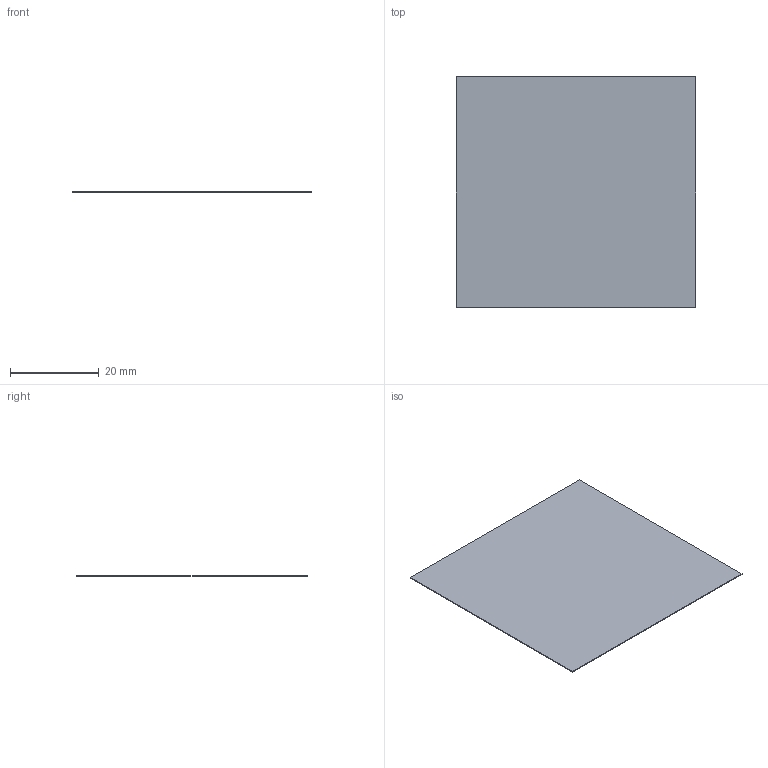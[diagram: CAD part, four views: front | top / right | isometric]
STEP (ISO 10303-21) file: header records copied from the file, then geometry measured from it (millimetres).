
FILE_DESCRIPTION (( 'STEP AP203' ), '1' );
FILE_NAME ('CV-PL-CX-94X60X58.STEP', '2024-03-15T09:53:56', ( '' ), ( '' ), 'SwSTEP 2.0', 'SolidWorks 2020', '' );
FILE_SCHEMA (( 'CONFIG_CONTROL_DESIGN' ));
Length unit declared in the file: millimetre
Products named in the file (1): CV-PL-CX-94X60X58
Bounding box: 54 x 52 x 0.19 mm (x, y, z)
Volume: 533.5 mm3; surface area: 5656.3 mm2
Topology: 1 solids, 1 shells, 6 faces, 12 edges, 8 vertices
Faces by surface type: plane 6
Entity records: 233 total; most frequent: CARTESIAN_POINT 27, DIRECTION 26, ORIENTED_EDGE 24, EDGE_CURVE 12, LINE 12, VECTOR 12, PERSON_AND_ORGANIZATION 8, VERTEX_POINT 8
